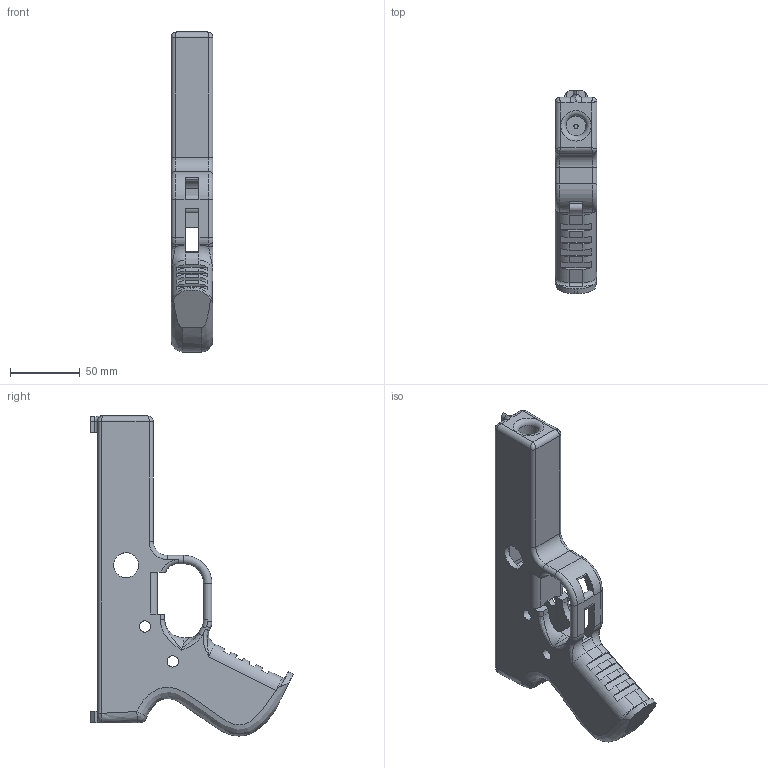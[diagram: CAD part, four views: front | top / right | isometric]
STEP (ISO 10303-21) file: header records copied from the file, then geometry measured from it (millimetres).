
FILE_DESCRIPTION(/* description */ (''),/* implementation_level */ '2;1');
FILE_NAME(/* name */ 'C:/Users/Owner/Desktop/K-CAD Songbird PM4 Centerfire/STEP/Centerfire Frames/Songbird PM4C Recoil Pad Frame UNDER 51 Cal ONLY.step',/* time_stamp */ '2020-12-06T20:30:31-05:00',/* author */ (''),/* organization */ (''),/* preprocessor_version */ 'ST-DEVELOPER v18.1',/* originating_system */ 'Autodesk Translation Framework v9.3.0.1241',/* authorisation */ '');
FILE_SCHEMA (('AUTOMOTIVE_DESIGN { 1 0 10303 214 3 1 1 }'));
Length unit declared in the file: millimetre
Products named in the file (1): Songbird PM4C RP Frame UNDER 51 Cal ONLY
Bounding box: 30 x 145.5 x 229.49 mm (x, y, z)
Volume: 224900 mm3; surface area: 71074.1 mm2
Topology: 1 solids, 1 shells, 290 faces, 789 edges, 488 vertices
Faces by surface type: plane 121, cylinder 107, torus 33, bspline 27, sphere 2
Full cylindrical faces by diameter (mm): 3 x1, 8.1 x4, 12 x3, 14.224 x1, 18 x1
Entity records: 11243 total; most frequent: CARTESIAN_POINT 3937, ORIENTED_EDGE 1564, DIRECTION 1516, EDGE_CURVE 782, AXIS2_PLACEMENT_3D 564, VERTEX_POINT 488, LINE 388, VECTOR 388
